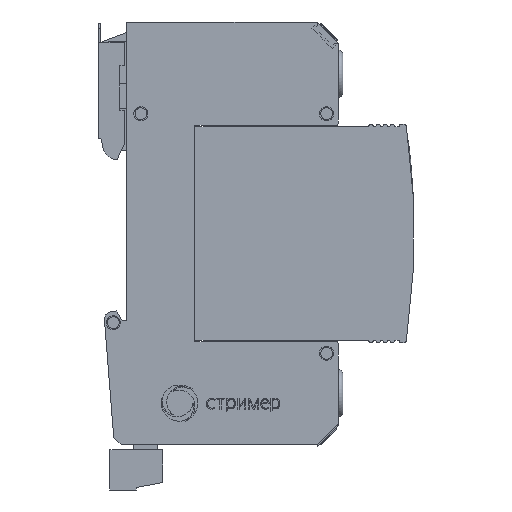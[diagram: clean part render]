
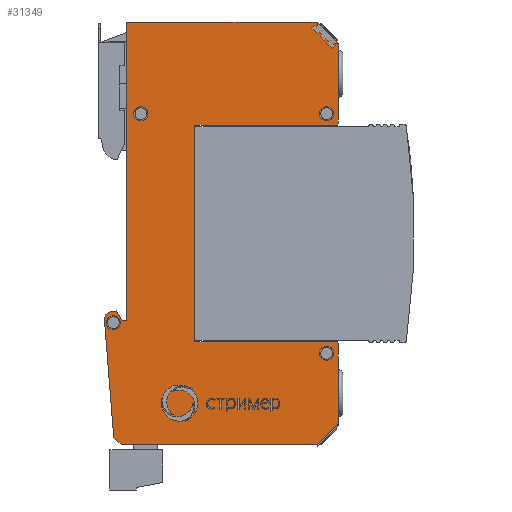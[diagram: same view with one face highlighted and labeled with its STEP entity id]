
A CAD part, front view. The second image highlights one B-rep face of the part: STEP entity #31349.
In plain terms, the highlighted planar face has unit normal (0, -1, 0).
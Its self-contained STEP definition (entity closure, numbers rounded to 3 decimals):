
#29659=CARTESIAN_POINT('',(-14.5,-18.,45.));
#29660=VERTEX_POINT('',#29659);
#29667=CARTESIAN_POINT('',(26.,-18.,45.));
#29668=VERTEX_POINT('',#29667);
#29669=CARTESIAN_POINT('',(-14.5,-18.,45.));
#29670=DIRECTION('',(1.,-0.,-0.));
#29671=VECTOR('',#29670,40.5);
#29672=LINE('',#29669,#29671);
#29673=EDGE_CURVE('',#29660,#29668,#29672,.T.);
#30297=CARTESIAN_POINT('',(-14.5,-18.,-18.5));
#30298=VERTEX_POINT('',#30297);
#30305=CARTESIAN_POINT('',(-14.5,-18.,-18.5));
#30306=DIRECTION('',(-0.,-0.,1.));
#30307=VECTOR('',#30306,63.5);
#30308=LINE('',#30305,#30307);
#30309=EDGE_CURVE('',#30298,#29660,#30308,.T.);
#30504=CARTESIAN_POINT('',(-15.5,-18.,-45.));
#30505=VERTEX_POINT('',#30504);
#30512=CARTESIAN_POINT('',(-17.29,-18.,-43.498));
#30513=VERTEX_POINT('',#30512);
#30514=CARTESIAN_POINT('',(-15.5,-18.,-45.));
#30515=DIRECTION('',(-0.766,-0.,0.643));
#30516=VECTOR('',#30515,2.337);
#30517=LINE('',#30514,#30516);
#30518=EDGE_CURVE('',#30505,#30513,#30517,.T.);
#30543=CARTESIAN_POINT('',(-19.273,-18.,-18.306));
#30544=VERTEX_POINT('',#30543);
#30545=CARTESIAN_POINT('',(-17.29,-18.,-43.498));
#30546=DIRECTION('',(-0.078,-0.,0.997));
#30547=VECTOR('',#30546,25.27);
#30548=LINE('',#30545,#30547);
#30549=EDGE_CURVE('',#30513,#30544,#30548,.T.);
#30575=CARTESIAN_POINT('',(-17.999,-18.,-16.704));
#30576=VERTEX_POINT('',#30575);
#30577=CARTESIAN_POINT('',(-17.777,-18.,-18.188));
#30578=DIRECTION('',(0.,1.,0.));
#30579=DIRECTION('',(0.,-0.,1.));
#30580=AXIS2_PLACEMENT_3D('',#30577,#30578,#30579);
#30581=CIRCLE('',#30580,1.5);
#30582=EDGE_CURVE('',#30544,#30576,#30581,.T.);
#30607=CARTESIAN_POINT('',(-16.632,-18.,-16.5));
#30608=VERTEX_POINT('',#30607);
#30609=CARTESIAN_POINT('',(-17.999,-18.,-16.704));
#30610=DIRECTION('',(0.989,-0.,0.148));
#30611=VECTOR('',#30610,1.383);
#30612=LINE('',#30609,#30611);
#30613=EDGE_CURVE('',#30576,#30608,#30612,.T.);
#30638=CARTESIAN_POINT('',(-15.5,-18.,-18.5));
#30639=VERTEX_POINT('',#30638);
#30640=CARTESIAN_POINT('',(-16.632,-18.,-16.5));
#30641=DIRECTION('',(0.492,0.,-0.87));
#30642=VECTOR('',#30641,2.298);
#30643=LINE('',#30640,#30642);
#30644=EDGE_CURVE('',#30608,#30639,#30643,.T.);
#30667=CARTESIAN_POINT('',(-15.5,-18.,-18.5));
#30668=DIRECTION('',(1.,-0.,-0.));
#30669=VECTOR('',#30668,1.);
#30670=LINE('',#30667,#30669);
#30671=EDGE_CURVE('',#30639,#30298,#30670,.T.);
#30691=CARTESIAN_POINT('',(30.5,-18.,40.5));
#30692=VERTEX_POINT('',#30691);
#30693=CARTESIAN_POINT('',(26.,-18.,45.));
#30694=DIRECTION('',(0.707,0.,-0.707));
#30695=VECTOR('',#30694,6.364);
#30696=LINE('',#30693,#30695);
#30697=EDGE_CURVE('',#29668,#30692,#30696,.T.);
#30742=CARTESIAN_POINT('',(30.5,-18.,23.5));
#30743=VERTEX_POINT('',#30742);
#30744=CARTESIAN_POINT('',(30.5,-18.,40.5));
#30745=DIRECTION('',(-0.,0.,-1.));
#30746=VECTOR('',#30745,17.);
#30747=LINE('',#30744,#30746);
#30748=EDGE_CURVE('',#30692,#30743,#30747,.T.);
#30774=CARTESIAN_POINT('',(30.,-18.,23.));
#30775=VERTEX_POINT('',#30774);
#30776=CARTESIAN_POINT('',(30.,-18.,23.5));
#30777=DIRECTION('',(0.,1.,0.));
#30778=DIRECTION('',(0.,-0.,1.));
#30779=AXIS2_PLACEMENT_3D('',#30776,#30777,#30778);
#30780=CIRCLE('',#30779,0.5);
#30781=EDGE_CURVE('',#30743,#30775,#30780,.T.);
#30806=CARTESIAN_POINT('',(0.,-18.,23.));
#30807=VERTEX_POINT('',#30806);
#30808=CARTESIAN_POINT('',(30.,-18.,23.));
#30809=DIRECTION('',(-1.,-0.,-0.));
#30810=VECTOR('',#30809,30.);
#30811=LINE('',#30808,#30810);
#30812=EDGE_CURVE('',#30775,#30807,#30811,.T.);
#30837=CARTESIAN_POINT('',(0.,-18.,-23.));
#30838=VERTEX_POINT('',#30837);
#30839=CARTESIAN_POINT('',(0.,-18.,23.));
#30840=DIRECTION('',(-0.,0.,-1.));
#30841=VECTOR('',#30840,46.);
#30842=LINE('',#30839,#30841);
#30843=EDGE_CURVE('',#30807,#30838,#30842,.T.);
#30868=CARTESIAN_POINT('',(30.,-18.,-23.));
#30869=VERTEX_POINT('',#30868);
#30870=CARTESIAN_POINT('',(0.,-18.,-23.));
#30871=DIRECTION('',(1.,-0.,-0.));
#30872=VECTOR('',#30871,30.);
#30873=LINE('',#30870,#30872);
#30874=EDGE_CURVE('',#30838,#30869,#30873,.T.);
#30900=CARTESIAN_POINT('',(30.5,-18.,-23.5));
#30901=VERTEX_POINT('',#30900);
#30902=CARTESIAN_POINT('',(30.,-18.,-23.5));
#30903=DIRECTION('',(0.,1.,0.));
#30904=DIRECTION('',(0.,-0.,1.));
#30905=AXIS2_PLACEMENT_3D('',#30902,#30903,#30904);
#30906=CIRCLE('',#30905,0.5);
#30907=EDGE_CURVE('',#30869,#30901,#30906,.T.);
#30952=CARTESIAN_POINT('',(30.5,-18.,-40.5));
#30953=VERTEX_POINT('',#30952);
#30954=CARTESIAN_POINT('',(30.5,-18.,-23.5));
#30955=DIRECTION('',(-0.,0.,-1.));
#30956=VECTOR('',#30955,17.);
#30957=LINE('',#30954,#30956);
#30958=EDGE_CURVE('',#30901,#30953,#30957,.T.);
#30983=CARTESIAN_POINT('',(26.,-18.,-45.));
#30984=VERTEX_POINT('',#30983);
#30985=CARTESIAN_POINT('',(30.5,-18.,-40.5));
#30986=DIRECTION('',(-0.707,0.,-0.707));
#30987=VECTOR('',#30986,6.364);
#30988=LINE('',#30985,#30987);
#30989=EDGE_CURVE('',#30953,#30984,#30988,.T.);
#31005=CARTESIAN_POINT('',(-17.38,-18.,-17.5));
#31006=VERTEX_POINT('',#31005);
#31007=CARTESIAN_POINT('',(-18.88,-18.,-19.));
#31008=VERTEX_POINT('',#31007);
#31009=CARTESIAN_POINT('',(-17.38,-18.,-19.));
#31010=DIRECTION('',(0.,1.,0.));
#31011=DIRECTION('',(0.,-0.,1.));
#31012=AXIS2_PLACEMENT_3D('',#31009,#31010,#31011);
#31013=CIRCLE('',#31012,1.5);
#31014=EDGE_CURVE('',#31006,#31008,#31013,.T.);
#31016=CARTESIAN_POINT('',(-17.38,-18.,-19.));
#31017=DIRECTION('',(0.,1.,0.));
#31018=DIRECTION('',(0.,-0.,1.));
#31019=AXIS2_PLACEMENT_3D('',#31016,#31017,#31018);
#31020=CIRCLE('',#31019,1.5);
#31021=EDGE_CURVE('',#31008,#31006,#31020,.T.);
#31051=CARTESIAN_POINT('',(28.,-18.,-24.));
#31052=VERTEX_POINT('',#31051);
#31053=CARTESIAN_POINT('',(26.5,-18.,-25.5));
#31054=VERTEX_POINT('',#31053);
#31055=CARTESIAN_POINT('',(28.,-18.,-25.5));
#31056=DIRECTION('',(0.,1.,0.));
#31057=DIRECTION('',(0.,-0.,1.));
#31058=AXIS2_PLACEMENT_3D('',#31055,#31056,#31057);
#31059=CIRCLE('',#31058,1.5);
#31060=EDGE_CURVE('',#31052,#31054,#31059,.T.);
#31062=CARTESIAN_POINT('',(28.,-18.,-25.5));
#31063=DIRECTION('',(0.,1.,0.));
#31064=DIRECTION('',(0.,-0.,1.));
#31065=AXIS2_PLACEMENT_3D('',#31062,#31063,#31064);
#31066=CIRCLE('',#31065,1.5);
#31067=EDGE_CURVE('',#31054,#31052,#31066,.T.);
#31097=CARTESIAN_POINT('',(-11.5,-18.,27.));
#31098=VERTEX_POINT('',#31097);
#31099=CARTESIAN_POINT('',(-13.,-18.,25.5));
#31100=VERTEX_POINT('',#31099);
#31101=CARTESIAN_POINT('',(-11.5,-18.,25.5));
#31102=DIRECTION('',(0.,1.,0.));
#31103=DIRECTION('',(0.,-0.,1.));
#31104=AXIS2_PLACEMENT_3D('',#31101,#31102,#31103);
#31105=CIRCLE('',#31104,1.5);
#31106=EDGE_CURVE('',#31098,#31100,#31105,.T.);
#31108=CARTESIAN_POINT('',(-11.5,-18.,25.5));
#31109=DIRECTION('',(0.,1.,0.));
#31110=DIRECTION('',(0.,-0.,1.));
#31111=AXIS2_PLACEMENT_3D('',#31108,#31109,#31110);
#31112=CIRCLE('',#31111,1.5);
#31113=EDGE_CURVE('',#31100,#31098,#31112,.T.);
#31143=CARTESIAN_POINT('',(28.,-18.,27.));
#31144=VERTEX_POINT('',#31143);
#31145=CARTESIAN_POINT('',(26.5,-18.,25.5));
#31146=VERTEX_POINT('',#31145);
#31147=CARTESIAN_POINT('',(28.,-18.,25.5));
#31148=DIRECTION('',(0.,1.,0.));
#31149=DIRECTION('',(0.,-0.,1.));
#31150=AXIS2_PLACEMENT_3D('',#31147,#31148,#31149);
#31151=CIRCLE('',#31150,1.5);
#31152=EDGE_CURVE('',#31144,#31146,#31151,.T.);
#31154=CARTESIAN_POINT('',(28.,-18.,25.5));
#31155=DIRECTION('',(0.,1.,0.));
#31156=DIRECTION('',(0.,-0.,1.));
#31157=AXIS2_PLACEMENT_3D('',#31154,#31155,#31156);
#31158=CIRCLE('',#31157,1.5);
#31159=EDGE_CURVE('',#31146,#31144,#31158,.T.);
#31298=CARTESIAN_POINT('',(26.,-18.,-45.));
#31299=DIRECTION('',(-1.,-0.,-0.));
#31300=VECTOR('',#31299,41.5);
#31301=LINE('',#31298,#31300);
#31302=EDGE_CURVE('',#30984,#30505,#31301,.T.);
#31308=CARTESIAN_POINT('',(0.,-18.,-0.));
#31309=DIRECTION('',(0.,1.,0.));
#31310=DIRECTION('',(0.,0.,-1.));
#31311=AXIS2_PLACEMENT_3D('',#31308,#31309,#31310);
#31312=PLANE('',#31311);
#31313=ORIENTED_EDGE('',*,*,#31159,.T.);
#31314=ORIENTED_EDGE('',*,*,#31152,.T.);
#31315=EDGE_LOOP('',(#31313,#31314));
#31316=FACE_BOUND('',#31315,.T.);
#31317=ORIENTED_EDGE('',*,*,#31113,.T.);
#31318=ORIENTED_EDGE('',*,*,#31106,.T.);
#31319=EDGE_LOOP('',(#31317,#31318));
#31320=FACE_BOUND('',#31319,.T.);
#31321=ORIENTED_EDGE('',*,*,#31067,.T.);
#31322=ORIENTED_EDGE('',*,*,#31060,.T.);
#31323=EDGE_LOOP('',(#31321,#31322));
#31324=FACE_BOUND('',#31323,.T.);
#31325=ORIENTED_EDGE('',*,*,#31021,.T.);
#31326=ORIENTED_EDGE('',*,*,#31014,.T.);
#31327=EDGE_LOOP('',(#31325,#31326));
#31328=FACE_BOUND('',#31327,.T.);
#31329=ORIENTED_EDGE('',*,*,#30518,.F.);
#31330=ORIENTED_EDGE('',*,*,#31302,.F.);
#31331=ORIENTED_EDGE('',*,*,#30989,.F.);
#31332=ORIENTED_EDGE('',*,*,#30958,.F.);
#31333=ORIENTED_EDGE('',*,*,#30907,.F.);
#31334=ORIENTED_EDGE('',*,*,#30874,.F.);
#31335=ORIENTED_EDGE('',*,*,#30843,.F.);
#31336=ORIENTED_EDGE('',*,*,#30812,.F.);
#31337=ORIENTED_EDGE('',*,*,#30781,.F.);
#31338=ORIENTED_EDGE('',*,*,#30748,.F.);
#31339=ORIENTED_EDGE('',*,*,#30697,.F.);
#31340=ORIENTED_EDGE('',*,*,#29673,.F.);
#31341=ORIENTED_EDGE('',*,*,#30309,.F.);
#31342=ORIENTED_EDGE('',*,*,#30671,.F.);
#31343=ORIENTED_EDGE('',*,*,#30644,.F.);
#31344=ORIENTED_EDGE('',*,*,#30613,.F.);
#31345=ORIENTED_EDGE('',*,*,#30582,.F.);
#31346=ORIENTED_EDGE('',*,*,#30549,.F.);
#31347=EDGE_LOOP('',(#31329,#31330,#31331,#31332,#31333,#31334,#31335,#31336,#31337,#31338,#31339,#31340,#31341,#31342,#31343,#31344,#31345,#31346));
#31348=FACE_BOUND('',#31347,.T.);
#31349=ADVANCED_FACE('',(#31316,#31320,#31324,#31328,#31348),#31312,.F.);
